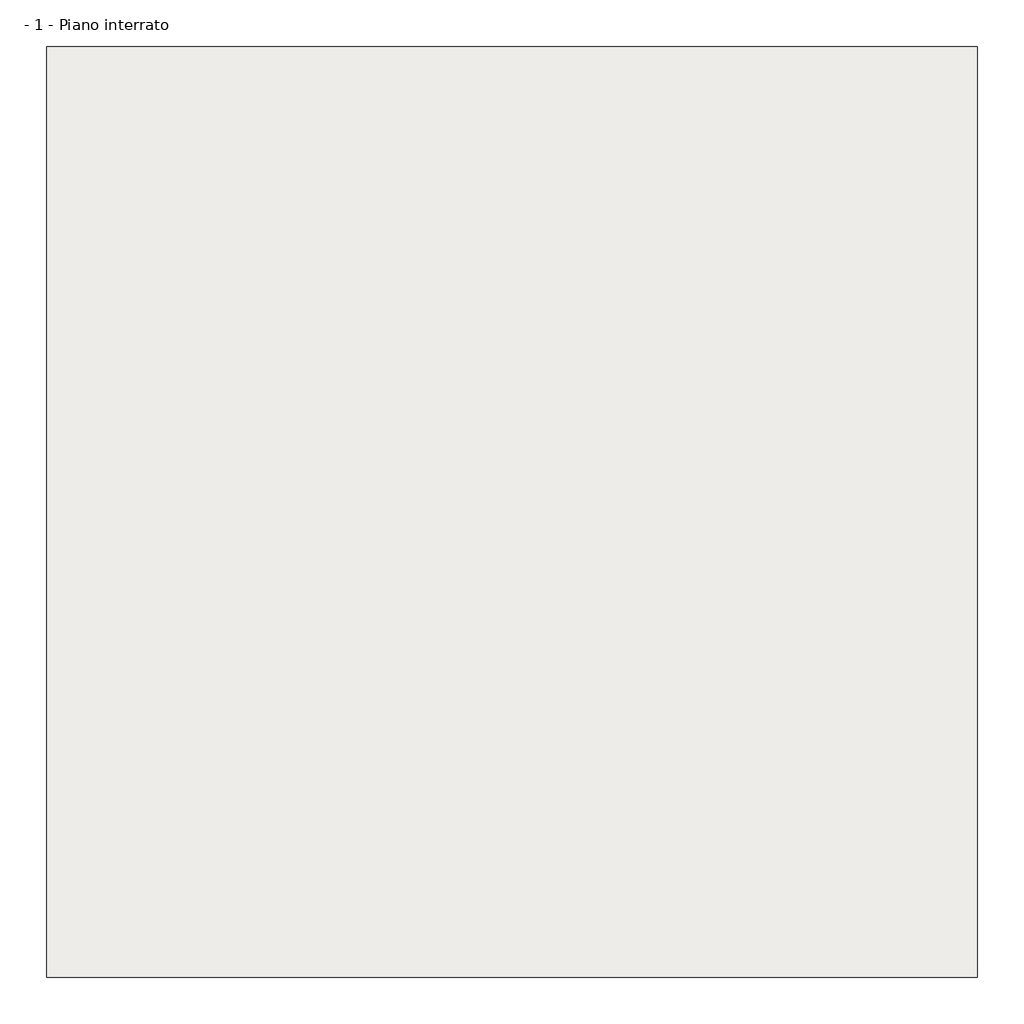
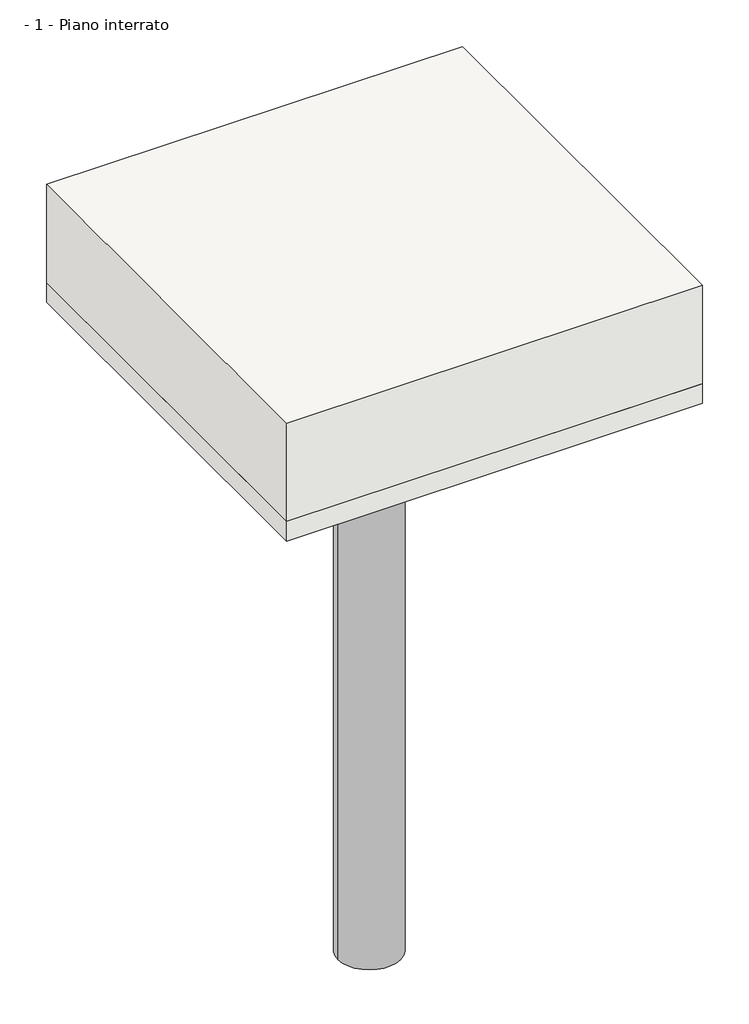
# One storey: 2 slabs, 1 proxy.
"""IFC4 building model written with IfcOpenShell, lengths in millimetres."""

from ifc_helpers import new_model, si_unit, point, frame, frame_2d, origin, place, context, project, spatial, polyline, circle_curve, trimmed, segment, composite_curve, outline, extrude, transform, mapped, element, save
from components import generic_models_04229b53

model = new_model("IFC4")

# Units and contexts
model_context = context("Model", 3, world=origin())
ifc_project = project(units=[si_unit("LENGTHUNIT", "METRE", prefix="MILLI")], contexts=[model_context])

# Site, building, storey
site = spatial("IfcSite", under=ifc_project)
building = spatial("IfcBuilding", under=site)
storey = spatial("IfcBuildingStorey", under=building, Name="- 1 - Piano interrato", Elevation=-2500.0)

# Proxy
placement = place(None, origin())
generic_models_shape = generic_models_04229b53(model_context)
element("IfcBuildingElementProxy", 1, Name="ITA-Palo di fondazione con Amphibia passante : ITA-Palo di fondazione con Amphibia passante", ObjectType="ITA-Palo di fondazione con Amphibia passante : ITA-Palo di fondazione con Amphibia passante", at=placement, inside=storey, context=model_context, shape_type="MappedRepresentation", body=[
    mapped(generic_models_shape, transform((707.2102466, -14657.4319911, -3000.0), x_axis=(-1.0, 0.0, 0.0), y_axis=(0.0, -1.0, 0.0), z_axis=(0.0, 0.0, 1.0))),
])

# Slabs
element("IfcSlab", 2, ObjectType="Magrone - 10 cm", at=placement, inside=storey, context=model_context, shape_type="SweptSolid", body=[
    extrude(outline(polyline([(1747.3707384, -15630.7761472), (-252.6292616, -15630.7761472), (-252.6292616, -13630.7761472), (1747.3707384, -13630.7761472), (1747.3707384, -15630.7761472)]), holes=[composite_curve([segment(trimmed(circle_curve(frame_2d((707.2102466, -14657.4319911)), 5.0), [point((712.2102466, -14657.4319911))], [point((702.2102466, -14657.4319911))], True, "CARTESIAN"), True, "CONTINUOUS"), segment(trimmed(circle_curve(frame_2d((707.2102466, -14657.4319911)), 5.0), [point((702.2102466, -14657.4319911))], [point((712.2102466, -14657.4319911))], True, "CARTESIAN"), True, "CONTINUOUS")], self_intersect=False)]), frame((0.0, 0.0, -3100.0), z_axis=(0.0, 0.0, 1.0), x_axis=(1.0, 0.0, 0.0)), (0.0, 0.0, 1.0), 100.0),
])
element("IfcSlab", 3, ObjectType="Platea - 50 cm", at=placement, inside=storey, context=model_context, shape_type="SweptSolid", body=[
    extrude(outline(polyline([(-252.6292616, -15630.7761472), (-252.6292616, -13630.7761472), (1747.3707384, -13630.7761472), (1747.3707384, -15630.7761472), (-252.6292616, -15630.7761472)])), frame((0.0, 0.0, -3000.0), z_axis=(0.0, 0.0, 1.0), x_axis=(1.0, 0.0, 0.0)), (0.0, 0.0, 1.0), 500.0),
])

save(model, "model.ifc")
